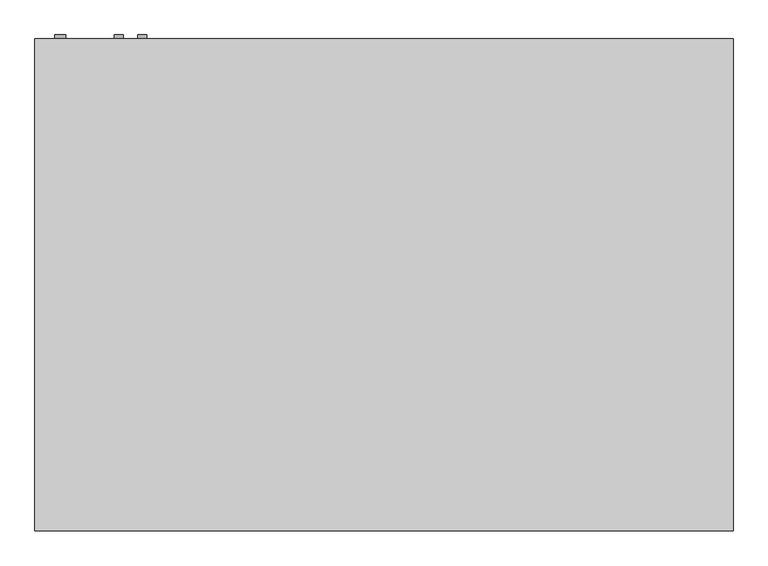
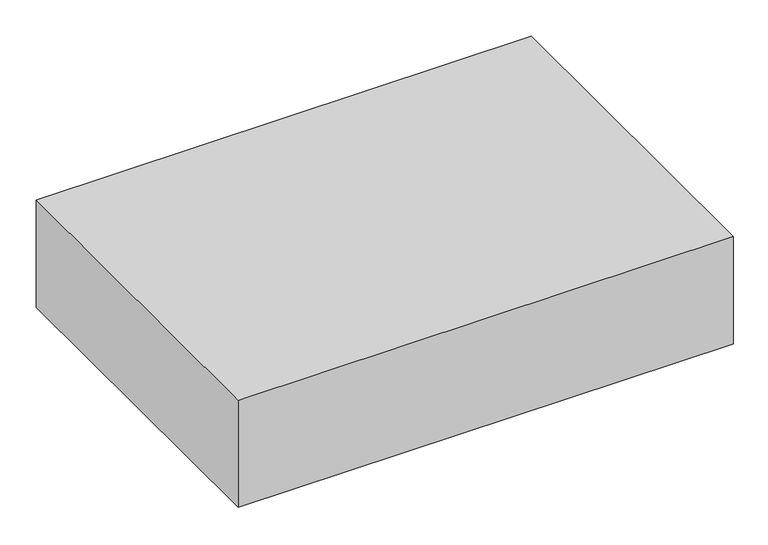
"""IFC4 building model written with IfcOpenShell, lengths in millimetres: proxy geometry, Exposed_Horizontal_Fan_Coil_Unit_-_42CGB_-_CARRIER_-_2-Pipe_Cool-EHeat_BS-BR_LH_2022 : Size 04 - 277v/60Hz/1Ph - 4 Row 3.0kW."""

import ifcopenshell
import ifcopenshell.guid

model = None  # the IFC model being written
_history = None  # IfcOwnerHistory: only IFC2X3 demands one
_inside = {}  # id of a spatial element -> (the spatial element, [elements in it])
_under = {}  # id of a project, library or spatial element -> (it, [spatial elements below it])
_declared = {}  # id of a project -> (the project, [libraries it declares])
_typed = {}  # id of a type object -> (the type object, [elements of that type])
_made_of = {}  # id of a material, layer set ... -> (it, [elements and type objects made of it])


def new_model(schema):
    """Start an empty IFC model of exactly this schema.

    Asked for "IFC4X3", IfcOpenShell would pick the latest addendum, in which some entities
    have other attributes; the version numbers below select the first issue.
    IFC2X3 requires an IfcOwnerHistory on every rooted entity: one is made here for all.
    """
    global model, _history
    if schema == "IFC4X3":
        model = ifcopenshell.file(schema_version=(4, 3, 0, 0))
    else:
        model = ifcopenshell.file(schema=schema)
    _inside.clear()
    _under.clear()
    _declared.clear()
    _typed.clear()
    _made_of.clear()
    _history = None
    if model.schema == "IFC2X3":
        org = make("IfcOrganization", Name="unknown")
        user = make(
            "IfcPersonAndOrganization",
            ThePerson=make("IfcPerson", FamilyName="unknown"),
            TheOrganization=org,
        )
        app = make(
            "IfcApplication",
            ApplicationDeveloper=org,
            Version="unknown",
            ApplicationFullName="unknown",
            ApplicationIdentifier="unknown",
        )
        _history = make(
            "IfcOwnerHistory",
            OwningUser=user,
            OwningApplication=app,
            ChangeAction="ADDED",
            CreationDate=0,
        )
    return model


def make(cls, **values):
    """One entity of the class cls with the attributes given. An attribute that is None is left unset."""
    return model.create_entity(
        cls, **{name: value for name, value in values.items() if value is not None}
    )


def rooted(cls, **values):
    """An entity with a GlobalId (a new one), such as an element, a storey or a relation."""
    return make(cls, GlobalId=ifcopenshell.guid.new(), OwnerHistory=_history, **values)


def si_unit(unit_type, name, prefix=None):
    """IfcSIUnit, for example si_unit("LENGTHUNIT", "METRE", prefix="MILLI")."""
    return make("IfcSIUnit", UnitType=unit_type, Prefix=prefix, Name=name)


def assignment(units):
    """IfcUnitAssignment: the units of a project."""
    return None if units is None else make("IfcUnitAssignment", Units=units)


def point(xyz):
    """IfcCartesianPoint."""
    return None if xyz is None else make("IfcCartesianPoint", Coordinates=xyz)


def direction(xyz):
    """IfcDirection."""
    return None if xyz is None else make("IfcDirection", DirectionRatios=xyz)


def frame(location, z_axis=None, x_axis=None):
    """IfcAxis2Placement3D, a coordinate frame: its origin and axes. An axis left out is left unset."""
    return make(
        "IfcAxis2Placement3D",
        Location=point(location),
        Axis=direction(z_axis),
        RefDirection=direction(x_axis),
    )


def frame_2d(location, x_axis=None):
    """IfcAxis2Placement2D, a coordinate frame in the plane: its origin and x axis."""
    return make(
        "IfcAxis2Placement2D", Location=point(location), RefDirection=direction(x_axis)
    )


def origin():
    """The frame at (0, 0, 0) with its axes left unset."""
    return frame((0.0, 0.0, 0.0))


def place(relative_to, where):
    """IfcLocalPlacement: puts the frame where relative to a parent placement (None: the world)."""
    return make(
        "IfcLocalPlacement", PlacementRelTo=relative_to, RelativePlacement=where
    )


def context(
    kind, dimensions, precision=None, world=None, true_north=None, identifier=None
):
    """IfcGeometricRepresentationContext, for example the 3D "Model" context."""
    return make(
        "IfcGeometricRepresentationContext",
        ContextIdentifier=identifier,
        ContextType=kind,
        CoordinateSpaceDimension=dimensions,
        Precision=precision,
        WorldCoordinateSystem=world,
        TrueNorth=true_north,
    )


def project(units=None, contexts=None):
    """IfcProject with its units and contexts."""
    return rooted(
        "IfcProject",
        Name="project",
        RepresentationContexts=contexts,
        UnitsInContext=assignment(units),
    )


def spatial(cls, under=None, at=None, **own):
    """A site, building, storey or space (cls), placed at a placement, below another one or the project."""
    s = rooted(cls, ObjectPlacement=at, **own)
    if under is not None:
        _under.setdefault(under.id(), (under, []))[1].append(s)
    return s


def polyline(points):
    """IfcPolyline through the points."""
    return make("IfcPolyline", Points=[point(p) for p in points])


def circle_curve(where, radius):
    """IfcCircle in the frame where."""
    return make("IfcCircle", Position=where, Radius=radius)


def trimmed(basis, trim1, trim2, sense, master):
    """IfcTrimmedCurve: the piece of a basis curve between two trims."""
    return make(
        "IfcTrimmedCurve",
        BasisCurve=basis,
        Trim1=trim1,
        Trim2=trim2,
        SenseAgreement=sense,
        MasterRepresentation=master,
    )


def segment(curve, same_sense, transition):
    """IfcCompositeCurveSegment."""
    return make(
        "IfcCompositeCurveSegment",
        Transition=transition,
        SameSense=same_sense,
        ParentCurve=curve,
    )


def composite_curve(segments, self_intersect=None):
    """IfcCompositeCurve: segments joined end to end."""
    return make("IfcCompositeCurve", Segments=segments, SelfIntersect=self_intersect)


def outline(outer, holes=None, kind="AREA"):
    """IfcArbitraryClosedProfileDef: a profile drawn as a closed curve; with holes, ...WithVoids."""
    if holes is None:
        return make("IfcArbitraryClosedProfileDef", ProfileType=kind, OuterCurve=outer)
    return make(
        "IfcArbitraryProfileDefWithVoids",
        ProfileType=kind,
        OuterCurve=outer,
        InnerCurves=holes,
    )


def extrude(swept, where, along, depth):
    """IfcExtrudedAreaSolid: the profile swept, set in the frame where, extruded along a direction by depth."""
    return make(
        "IfcExtrudedAreaSolid",
        SweptArea=swept,
        Position=where,
        ExtrudedDirection=direction(along),
        Depth=depth,
    )


def shape(context_of_items, identifier, shape_type, items):
    """IfcShapeRepresentation: the items that make up one representation, for example the "Body"."""
    return make(
        "IfcShapeRepresentation",
        ContextOfItems=context_of_items,
        RepresentationIdentifier=identifier,
        RepresentationType=shape_type,
        Items=items,
    )


def source(mapping_origin, context_of_items, identifier, shape_type, items):
    """IfcRepresentationMap: a shape defined once, which mapped items show again and again."""
    return make(
        "IfcRepresentationMap",
        MappingOrigin=mapping_origin,
        MappedRepresentation=shape(context_of_items, identifier, shape_type, items),
    )


def transform(
    local_origin,
    x_axis=None,
    y_axis=None,
    z_axis=None,
    scale=None,
    scale2=None,
    scale3=None,
    uniform=True,
):
    """IfcCartesianTransformationOperator3D, or its non-uniform kind. x_axis, y_axis, z_axis: its Axis1, 2, 3."""
    if uniform:
        return make(
            "IfcCartesianTransformationOperator3D",
            Axis1=direction(x_axis),
            Axis2=direction(y_axis),
            LocalOrigin=point(local_origin),
            Scale=scale,
            Axis3=direction(z_axis),
        )
    return make(
        "IfcCartesianTransformationOperator3DnonUniform",
        Axis1=direction(x_axis),
        Axis2=direction(y_axis),
        LocalOrigin=point(local_origin),
        Scale=scale,
        Axis3=direction(z_axis),
        Scale2=scale2,
        Scale3=scale3,
    )


def mapped(mapping_source, mapping_target):
    """IfcMappedItem: shows the shape of a source again, moved by a transform."""
    return make(
        "IfcMappedItem", MappingSource=mapping_source, MappingTarget=mapping_target
    )


def made_of(thing, what):
    """Note that an element or type object is made of a material, layer set ...; save() writes the relation."""
    if what is not None:
        _made_of.setdefault(what.id(), (what, []))[1].append(thing)
    return thing


def element(
    cls,
    number,
    at=None,
    inside=None,
    cuts=None,
    type_object=None,
    material=None,
    context=None,
    identifier="Body",
    shape_type=None,
    held_by="IfcProductDefinitionShape",
    body=None,
    shapes=None,
    **own,
):
    """One element of the class cls, such as IfcWall. Its Tag is "e" and its number.

    at: its placement. inside: the storey or other place that contains it. cuts: it is an
    opening in that element (IfcRelVoidsElement). A single representation is given by context,
    identifier, shape_type and body (its items); several are given by shapes. held_by: the class
    of the entity that holds the representations. save() writes the other relations.
    """
    e = rooted(cls, Tag="e%d" % number, ObjectPlacement=at, **own)
    if body is not None:
        shapes = [shape(context, identifier, shape_type, body)]
    if shapes is not None:
        e.Representation = make(held_by, Representations=shapes)
    if inside is not None:
        _inside.setdefault(inside.id(), (inside, []))[1].append(e)
    if cuts is not None:
        rooted(
            "IfcRelVoidsElement", RelatingBuildingElement=cuts, RelatedOpeningElement=e
        )
    if type_object is not None:
        _typed.setdefault(type_object.id(), (type_object, []))[1].append(e)
    return made_of(e, material)


def aggregate(whole, parts):
    """IfcRelAggregates: a whole, such as a stair, and the parts it consists of."""
    return rooted("IfcRelAggregates", RelatingObject=whole, RelatedObjects=parts)


def save(model, path):
    """Write the relations noted so far, then the file.

    IfcRelAggregates (storeys below a building ...), IfcRelContainedInSpatialStructure (elements
    in a storey), IfcRelDefinesByType, IfcRelAssociatesMaterial and IfcRelDeclares: one each for
    every whole, place, type object, material and project.
    """
    for whole, parts in _under.values():
        aggregate(whole, parts)
    for where, things in _inside.values():
        rooted(
            "IfcRelContainedInSpatialStructure",
            RelatedElements=things,
            RelatingStructure=where,
        )
    for kind, things in _typed.values():
        rooted("IfcRelDefinesByType", RelatedObjects=things, RelatingType=kind)
    for what, things in _made_of.values():
        rooted("IfcRelAssociatesMaterial", RelatedObjects=things, RelatingMaterial=what)
    for by, libraries in _declared.values():
        rooted("IfcRelDeclares", RelatingContext=by, RelatedDefinitions=libraries)
    model.write(path)


def mechanical_equipment_0ba431d4(model_context):
    return source(origin(), model_context, "Body", "SweptSolid", [
        extrude(outline(polyline([(481.0125, -433.3875), (481.0125, -579.4375), (-176.2125, -579.4375), (-176.2125, -433.3875), (481.0125, -433.3875)])), frame((0.0, 0.0, -285.75), z_axis=(0.0, 0.0, 1.0), x_axis=(1.0, 0.0, 0.0)), (0.0, 0.0, 1.0), 6.35),
        extrude(outline(composite_curve([segment(trimmed(circle_curve(frame_2d((-60.325, -269.875)), 7.9375), [point((-60.325, -261.9375))], [point((-60.325, -277.8125))], False, "CARTESIAN"), True, "CONTINUOUS"), segment(trimmed(circle_curve(frame_2d((-60.325, -269.875)), 7.9375), [point((-60.325, -277.8125))], [point((-60.325, -261.9375))], False, "CARTESIAN"), True, "CONTINUOUS")], self_intersect=False)), frame((0.0, 192.0875, 0.0), z_axis=(0.0, 1.0, 0.0), x_axis=(0.0, 0.0, 1.0)), (0.0, 0.0, 1.0), 6.35),
        extrude(outline(composite_curve([segment(trimmed(circle_curve(frame_2d((-95.25, -311.15)), 7.9375), [point((-95.25, -303.2125))], [point((-95.25, -319.0875))], False, "CARTESIAN"), True, "CONTINUOUS"), segment(trimmed(circle_curve(frame_2d((-95.25, -311.15)), 7.9375), [point((-95.25, -319.0875))], [point((-95.25, -303.2125))], False, "CARTESIAN"), True, "CONTINUOUS")], self_intersect=False)), frame((0.0, 192.0875, 0.0), z_axis=(0.0, 1.0, 0.0), x_axis=(0.0, 0.0, 1.0)), (0.0, 0.0, 1.0), 6.35),
        extrude(outline(composite_curve([segment(trimmed(circle_curve(frame_2d((-260.35, -412.75)), 9.525), [point((-260.35, -403.225))], [point((-260.35, -422.275))], False, "CARTESIAN"), True, "CONTINUOUS"), segment(trimmed(circle_curve(frame_2d((-260.35, -412.75)), 9.525), [point((-260.35, -422.275))], [point((-260.35, -403.225))], False, "CARTESIAN"), True, "CONTINUOUS")], self_intersect=False)), frame((0.0, 192.0875, 0.0), z_axis=(0.0, 1.0, 0.0), x_axis=(0.0, 0.0, 1.0)), (0.0, 0.0, 1.0), 6.35),
        extrude(outline(polyline([(-457.2, 192.0875), (762.0, 192.0875), (762.0, -668.3375), (-457.2, -668.3375), (-457.2, 192.0875)])), frame((0.0, 0.0, -279.4), z_axis=(0.0, 0.0, 1.0), x_axis=(1.0, 0.0, 0.0)), (0.0, 0.0, 1.0), 279.4),
        extrude(outline(polyline([(565.15, 115.8875), (565.15, -138.1125), (-260.35, -138.1125), (-260.35, 115.8875), (565.15, 115.8875)])), frame((0.0, 0.0, -285.75), z_axis=(0.0, 0.0, 1.0), x_axis=(1.0, 0.0, 0.0)), (0.0, 0.0, 1.0), 6.35),
    ])


if __name__ == "__main__":
    model = new_model("IFC4")
    model_context = context("Model", 3, world=origin())
    ifc_project = project(units=[si_unit("LENGTHUNIT", "METRE", prefix="MILLI")], contexts=[model_context])
    site = spatial("IfcSite", under=ifc_project)
    building = spatial("IfcBuilding", under=site)
    placement = place(None, origin())
    mechanical_equipment_shape = mechanical_equipment_0ba431d4(model_context)
    element("IfcBuildingElementProxy", 1, Name="Exposed_Horizontal_Fan_Coil_Unit_-_42CGB_-_CARRIER_-_2-Pipe_Cool-EHeat_BS-BR_LH_2022 : Size 04 - 277v/60Hz/1Ph - 4 Row 3.0kW", ObjectType="Exposed_Horizontal_Fan_Coil_Unit_-_42CGB_-_CARRIER_-_2-Pipe_Cool-EHeat_BS-BR_LH_2022 : Size 04 - 277v/60Hz/1Ph - 4 Row 3.0kW", at=placement, inside=building, context=model_context, shape_type="MappedRepresentation", body=[
        mapped(mechanical_equipment_shape, transform((0.0, 0.0, 0.0), x_axis=(1.0, 0.0, 0.0), y_axis=(0.0, 1.0, 0.0), z_axis=(0.0, 0.0, 1.0))),
    ])
    save(model, "model.ifc")
